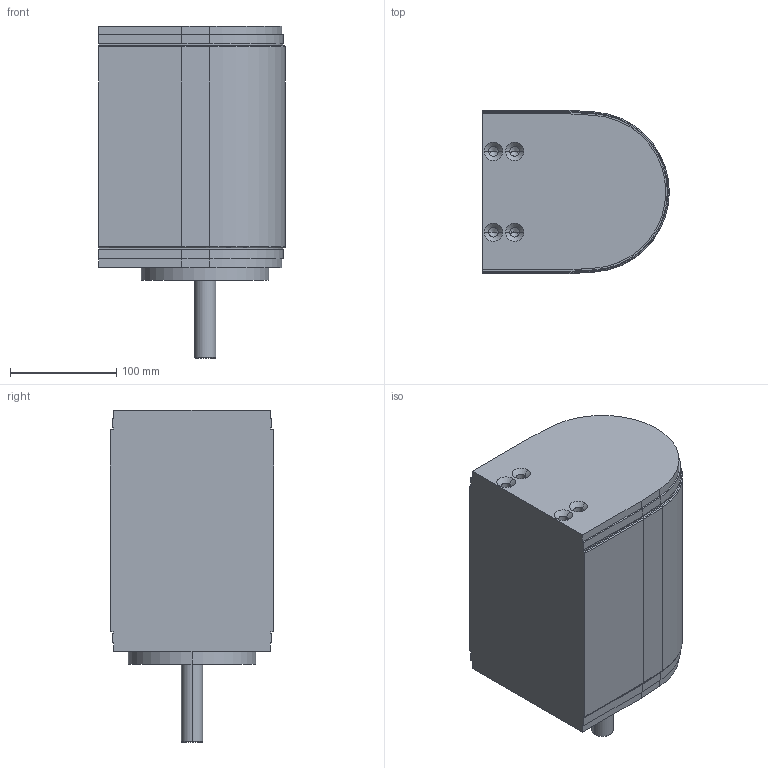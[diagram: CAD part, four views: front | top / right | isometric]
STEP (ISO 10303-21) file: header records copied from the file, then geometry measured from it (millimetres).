
FILE_DESCRIPTION (( 'STEP AP214' ), '1' );
FILE_NAME ('F2 750 MDG20 GP.step', '2017-04-05T07:34:38', ( '' ), ( '' ), 'SwSTEP 2.0', 'SolidWorks 2015', '' );
FILE_SCHEMA (( 'AUTOMOTIVE_DESIGN' ));
Length unit declared in the file: millimetre
Products named in the file (1): F2 750 MDG20 GP
Bounding box: 175.3 x 153.4 x 312 mm (x, y, z)
Volume: 5588018.2 mm3; surface area: 195144.9 mm2
Topology: 1 solids, 1 shells, 113 faces, 282 edges, 166 vertices
Faces by surface type: plane 40, cylinder 37, cone 34, torus 2
Entity records: 3930 total; most frequent: DIRECTION 576, CARTESIAN_POINT 558, ORIENTED_EDGE 532, EDGE_CURVE 266, AXIS2_PLACEMENT_3D 200, VECTOR 176, LINE 176, VERTEX_POINT 166
